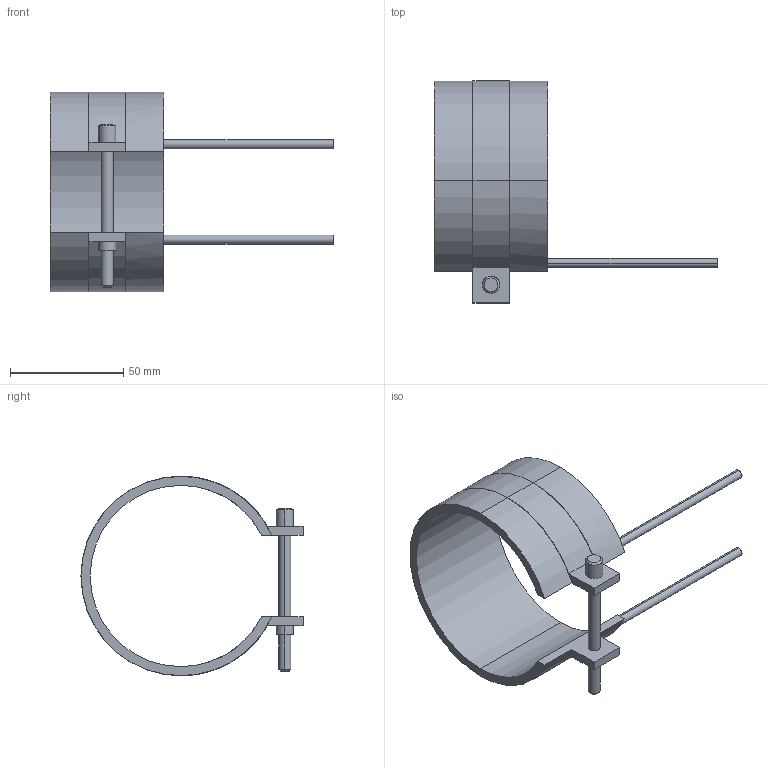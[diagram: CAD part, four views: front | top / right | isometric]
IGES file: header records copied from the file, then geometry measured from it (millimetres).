
Start section: START RECORD GO HERE.
Global section: file name: 14080050.igs; native system: DASSAULT SYSTEMES CATIA V5 R20 - www.3ds.com; preprocessor: CATIA Version 5 Release 20 ; author: Utente; organization: NB04-ASUS; date: 20210403.100255; units: millimetre
Bounding box: 125 x 98.1 x 88.2 mm (x, y, z)
Surface area: 29128.3 mm2 (no closed solid volume)
Topology: 0 solids, 0 shells, 45 faces, 232 edges, 232 vertices
Faces by surface type: revolution 28, plane 17
